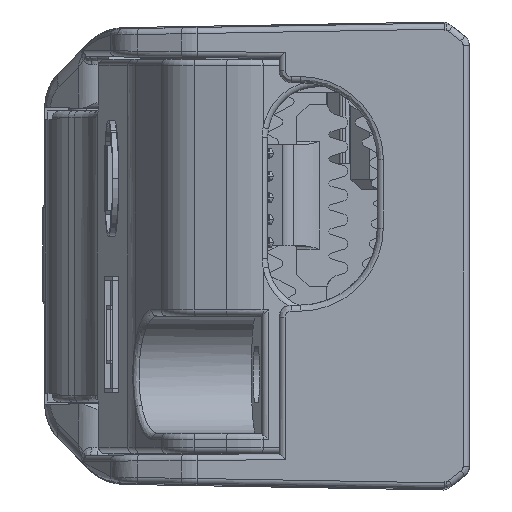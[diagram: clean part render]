
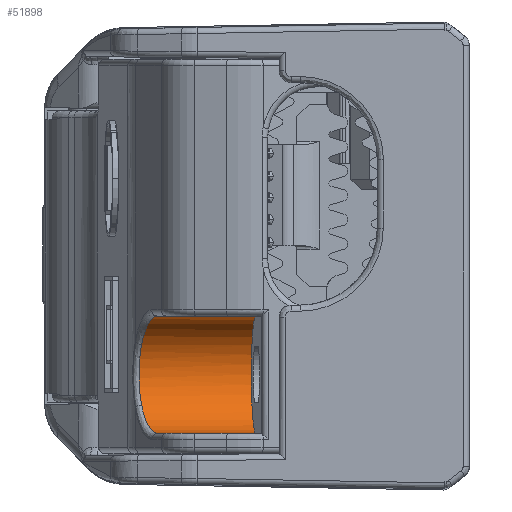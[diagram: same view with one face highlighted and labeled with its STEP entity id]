
A CAD part, left-side view. The second image highlights one B-rep face of the part: STEP entity #51898.
In plain terms, the highlighted cylindrical face has radius 2.9 mm (diameter 5.8 mm), a partial arc.
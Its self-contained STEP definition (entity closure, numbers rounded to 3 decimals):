
#45285=CARTESIAN_POINT('',(-67.626,18.777,
-7.337));
#45332=CARTESIAN_POINT('',(-67.626,18.777,
-4.353));
#45459=DIRECTION('',(0.,1.,0.));
#45460=VECTOR('',#45459,4.868);
#45461=CARTESIAN_POINT('',(-70.112,13.3,-8.745));
#45462=LINE('',#45461,#45460);
#45466=CARTESIAN_POINT('',(-70.112,18.168,
-8.745));
#45467=CARTESIAN_POINT('',(-69.969,18.203,
-8.745));
#45468=CARTESIAN_POINT('',(-69.688,18.272,
-8.724));
#45469=CARTESIAN_POINT('',(-69.277,18.373,
-8.632));
#45470=CARTESIAN_POINT('',(-68.888,18.468,
-8.485));
#45471=CARTESIAN_POINT('',(-68.52,18.558,
-8.281));
#45472=CARTESIAN_POINT('',(-68.179,18.641,
-8.021));
#45473=CARTESIAN_POINT('',(-67.873,18.716,
-7.706));
#45474=CARTESIAN_POINT('',(-67.702,18.758,
-7.464));
#45475=CARTESIAN_POINT('',(-67.626,18.777,
-7.337));
#45480=CARTESIAN_POINT('',(-67.626,18.777,
-7.337));
#45481=CARTESIAN_POINT('',(-67.577,18.789,
-7.256));
#45482=CARTESIAN_POINT('',(-67.489,18.809,
-7.091));
#45483=CARTESIAN_POINT('',(-67.381,18.833,
-6.833));
#45484=CARTESIAN_POINT('',(-67.3,18.849,
-6.57));
#45485=CARTESIAN_POINT('',(-67.244,18.86,
-6.3));
#45486=CARTESIAN_POINT('',(-67.214,18.866,
-6.027));
#45487=CARTESIAN_POINT('',(-67.209,18.867,
-5.751));
#45488=CARTESIAN_POINT('',(-67.231,18.863,
-5.477));
#45489=CARTESIAN_POINT('',(-67.279,18.853,
-5.205));
#45490=CARTESIAN_POINT('',(-67.355,18.838,
-4.93));
#45491=CARTESIAN_POINT('',(-67.467,18.814,
-4.642));
#45492=CARTESIAN_POINT('',(-67.567,18.791,
-4.451));
#45493=CARTESIAN_POINT('',(-67.626,18.777,
-4.353));
#45498=CARTESIAN_POINT('',(-67.626,18.777,
-4.353));
#45499=CARTESIAN_POINT('',(-67.698,18.759,
-4.233));
#45500=CARTESIAN_POINT('',(-67.858,18.72,
-4.005));
#45501=CARTESIAN_POINT('',(-68.143,18.65,
-3.703));
#45502=CARTESIAN_POINT('',(-68.467,18.571,
-3.445));
#45503=CARTESIAN_POINT('',(-68.829,18.482,
-3.233));
#45504=CARTESIAN_POINT('',(-69.229,18.384,
-3.071));
#45505=CARTESIAN_POINT('',(-69.662,18.278,
-2.968));
#45506=CARTESIAN_POINT('',(-69.962,18.205,
-2.945));
#45507=CARTESIAN_POINT('',(-70.112,18.168,
-2.945));
#45512=DIRECTION('',(0.,-1.,0.));
#45513=VECTOR('',#45512,4.868);
#45514=CARTESIAN_POINT('',(-70.112,18.168,
-2.945));
#45515=LINE('',#45514,#45513);
#45556=CARTESIAN_POINT('',(-70.112,13.3,-5.845));
#45557=DIRECTION('',(0.,-1.,0.));
#45558=DIRECTION('',(0.,0.,-1.));
#45559=AXIS2_PLACEMENT_3D('',#45556,#45557,#45558);
#45564=CARTESIAN_POINT('',(-70.112,13.3,-5.845));
#45565=DIRECTION('',(0.,-1.,0.));
#45566=DIRECTION('',(1.,0.,0.));
#45567=AXIS2_PLACEMENT_3D('',#45564,#45565,#45566);
#48514=CARTESIAN_POINT('',(-70.112,18.168,
-8.745));
#48515=VERTEX_POINT('',#48514);
#48516=VERTEX_POINT('',#45285);
#48517=VERTEX_POINT('',#45332);
#48519=CARTESIAN_POINT('',(-70.112,18.168,
-2.945));
#48520=VERTEX_POINT('',#48519);
#48537=CARTESIAN_POINT('',(-70.112,13.3,-2.945));
#48538=VERTEX_POINT('',#48537);
#48541=CARTESIAN_POINT('',(-70.112,13.3,-8.745));
#48542=VERTEX_POINT('',#48541);
#48543=CARTESIAN_POINT('',(-67.212,13.3,-5.845));
#48544=VERTEX_POINT('',#48543);
#51881=CARTESIAN_POINT('',(-70.112,16.083,
-5.845));
#51882=DIRECTION('',(0.,1.,0.));
#51883=DIRECTION('',(1.,0.,0.));
#51884=AXIS2_PLACEMENT_3D('',#51881,#51882,#51883);
#51885=CYLINDRICAL_SURFACE('',#51884,2.9);
#51887=ORIENTED_EDGE('',*,*,#51886,.T.);
#51888=ORIENTED_EDGE('',*,*,#51623,.T.);
#51889=ORIENTED_EDGE('',*,*,#51697,.T.);
#51890=ORIENTED_EDGE('',*,*,#51756,.T.);
#51891=ORIENTED_EDGE('',*,*,#51868,.T.);
#51893=ORIENTED_EDGE('',*,*,#51892,.F.);
#51895=ORIENTED_EDGE('',*,*,#51894,.F.);
#51896=EDGE_LOOP('',(#51887,#51888,#51889,#51890,#51891,#51893,#51895));
#51897=FACE_OUTER_BOUND('',#51896,.F.);
#45476=B_SPLINE_CURVE_WITH_KNOTS('',3,(#45466,#45467,#45468,#45469,#45470,
#45471,#45472,#45473,#45474,#45475),.UNSPECIFIED.,.F.,.F.,(4,1,1,1,1,1,1,4),(
0.,0.145,0.285,0.424,0.563,
0.706,0.853,1.),.UNSPECIFIED.);
#45494=B_SPLINE_CURVE_WITH_KNOTS('',3,(#45480,#45481,#45482,#45483,#45484,
#45485,#45486,#45487,#45488,#45489,#45490,#45491,#45492,#45493),.UNSPECIFIED.,
.F.,.F.,(4,1,1,1,1,1,1,1,1,1,1,4),(0.,0.091,0.18,
0.267,0.355,0.442,0.53,
0.617,0.705,0.793,0.89,1.),
.UNSPECIFIED.);
#45508=B_SPLINE_CURVE_WITH_KNOTS('',3,(#45498,#45499,#45500,#45501,#45502,
#45503,#45504,#45505,#45506,#45507),.UNSPECIFIED.,.F.,.F.,(4,1,1,1,1,1,1,4),(
0.,0.14,0.276,0.414,0.552,
0.697,0.848,1.),.UNSPECIFIED.);
#45560=CIRCLE('',#45559,2.9);
#45568=CIRCLE('',#45567,2.9);
#51623=EDGE_CURVE('',#48515,#48516,#45476,.T.);
#51697=EDGE_CURVE('',#48516,#48517,#45494,.T.);
#51756=EDGE_CURVE('',#48517,#48520,#45508,.T.);
#51868=EDGE_CURVE('',#48520,#48538,#45515,.T.);
#51886=EDGE_CURVE('',#48542,#48515,#45462,.T.);
#51892=EDGE_CURVE('',#48544,#48538,#45568,.T.);
#51894=EDGE_CURVE('',#48542,#48544,#45560,.T.);
#51898=ADVANCED_FACE('',(#51897),#51885,.F.);
